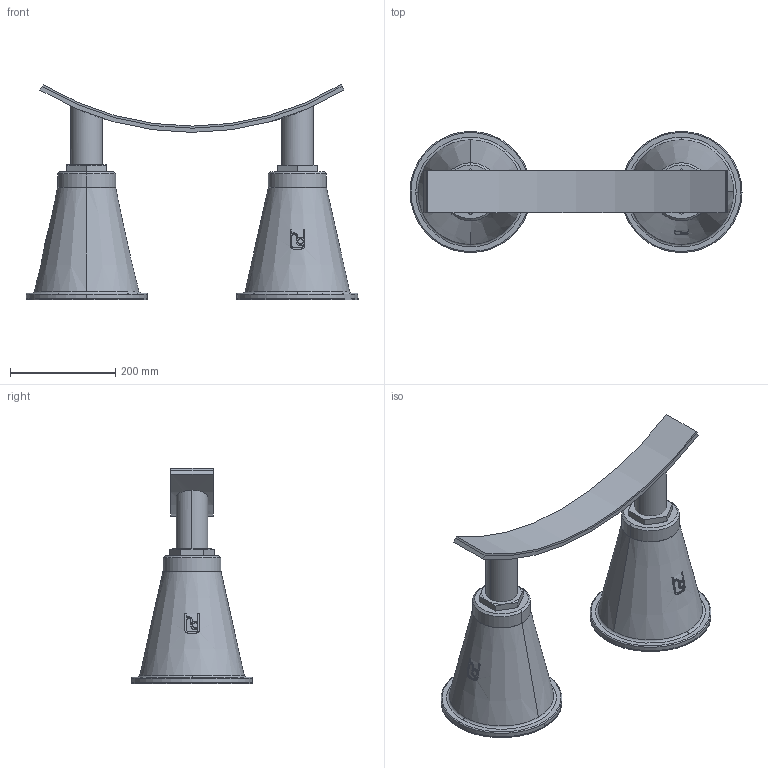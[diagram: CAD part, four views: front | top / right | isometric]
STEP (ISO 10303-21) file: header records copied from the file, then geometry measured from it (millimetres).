
FILE_DESCRIPTION(('STEP AP214'),'1');
FILE_NAME('RSRFA-DUO_DN1100.stp','2018-06-25T11:15:42',(' '),(' '),'Spatial InterOp 3D',' ',' ');
FILE_SCHEMA(('automotive_design'));
Length unit declared in the file: millimetre
Products named in the file (10): 1; 2; 3; 4; 5; 6; 7; 8; 9; 10
Bounding box: 630 x 230 x 408.37 mm (x, y, z)
Volume: 11902377.3 mm3; surface area: 962530.8 mm2
Topology: 10 solids, 14 shells, 214 faces, 506 edges, 326 vertices
Faces by surface type: plane 84, cylinder 80, cone 42, torus 8
Entity records: 9589 total; most frequent: CARTESIAN_POINT 2752, DIRECTION 1044, ORIENTED_EDGE 1012, EDGE_CURVE 506, AXIS2_PLACEMENT_3D 410, VERTEX_POINT 326, EDGE_LOOP 232, STYLED_ITEM 224
